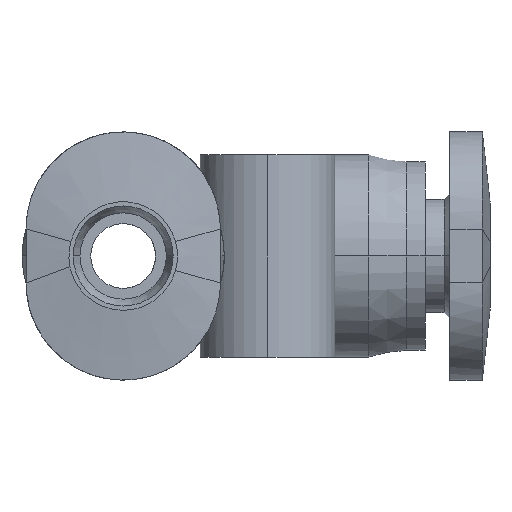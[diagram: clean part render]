
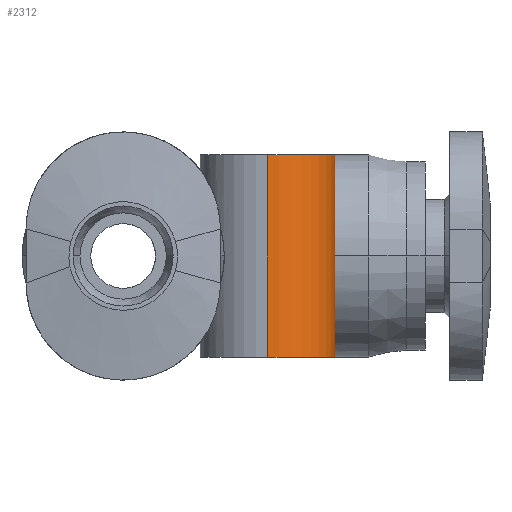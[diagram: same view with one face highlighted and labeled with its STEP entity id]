
A CAD part, left-side view. The second image highlights one B-rep face of the part: STEP entity #2312.
In plain terms, the highlighted cylindrical face has radius 2.5 mm (diameter 5 mm), a partial arc.
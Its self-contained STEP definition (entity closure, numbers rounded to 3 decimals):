
#56 = AXIS2_PLACEMENT_3D ( 'NONE', #1494, #4150, #1515 ) ;
#229 = CARTESIAN_POINT ( 'NONE',  ( -7.85, -5.35, 3.75 ) ) ;
#245 = DIRECTION ( 'NONE',  ( 0., 0., 1. ) ) ;
#251 = CARTESIAN_POINT ( 'NONE',  ( -2.877, -5.726, 2.405 ) ) ;
#314 = CARTESIAN_POINT ( 'NONE',  ( -3.395, -6.913, -1.598 ) ) ;
#369 = CARTESIAN_POINT ( 'NONE',  ( -3.589, -7.125, 1.091 ) ) ;
#383 = CARTESIAN_POINT ( 'NONE',  ( -2.85, -5.499, -2.437 ) ) ;
#489 = VERTEX_POINT ( 'NONE', #3186 ) ;
#536 = EDGE_CURVE ( 'NONE', #3581, #1575, #1518, .T. ) ;
#577 = LINE ( 'NONE', #1916, #1806 ) ;
#585 = CARTESIAN_POINT ( 'NONE',  ( -2.853, -5.5, 2.434 ) ) ;
#607 = CARTESIAN_POINT ( 'NONE',  ( -3.216, -6.659, 1.932 ) ) ;
#621 = CARTESIAN_POINT ( 'NONE',  ( -3.75, -7.271, 0. ) ) ;
#697 = CARTESIAN_POINT ( 'NONE',  ( -3.618, -7.153, 0.99 ) ) ;
#787 = ORIENTED_EDGE ( 'NONE', *, *, #3177, .F. ) ;
#812 = EDGE_CURVE ( 'NONE', #1575, #3771, #1939, .T. ) ;
#825 = CARTESIAN_POINT ( 'NONE',  ( -5.35, -5.35, 0. ) ) ;
#831 = DIRECTION ( 'NONE',  ( 0., 0., 1. ) ) ;
#902 = VECTOR ( 'NONE', #831, 1000. ) ;
#932 = CARTESIAN_POINT ( 'NONE',  ( -3.106, -6.454, 2.102 ) ) ;
#975 = EDGE_CURVE ( 'NONE', #3581, #3600, #3150, .T. ) ;
#1041 = CARTESIAN_POINT ( 'NONE',  ( -2.957, -6.088, -2.308 ) ) ;
#1207 = CARTESIAN_POINT ( 'NONE',  ( -3.75, -7.271, 0.332 ) ) ;
#1267 = CARTESIAN_POINT ( 'NONE',  ( -3.055, -6.343, 2.176 ) ) ;
#1350 = CARTESIAN_POINT ( 'NONE',  ( -3.557, -7.092, -1.189 ) ) ;
#1469 = VERTEX_POINT ( 'NONE', #4321 ) ;
#1487 = CARTESIAN_POINT ( 'NONE',  ( -7.85, -5.35, 0. ) ) ;
#1494 = CARTESIAN_POINT ( 'NONE',  ( -5.35, -5.35, 3.75 ) ) ;
#1499 = EDGE_LOOP ( 'NONE', ( #3843, #3590, #787, #2521, #2438, #3218, #2567 ) ) ;
#1511 = DIRECTION ( 'NONE',  ( 0., 0., 1. ) ) ;
#1515 = DIRECTION ( 'NONE',  ( -1., 0., 0. ) ) ;
#1518 = LINE ( 'NONE', #2519, #902 ) ;
#1544 = B_SPLINE_CURVE_WITH_KNOTS ( 'NONE', 3,
 ( #621, #4007, #2309, #2351, #3965, #3298, #1350, #4287, #3682, #2286, #314, #1702, #3607, #2979, #3634, #3365, #2050, #1041, #3003, #3021, #383, #3987 ),
 .UNSPECIFIED., .F., .F.,
 ( 4, 2, 2, 2, 2, 2, 2, 2, 2, 2, 4 ),
 ( 0.5, 0.585, 0.606, 0.617, 0.627, 0.67, 0.712, 0.733, 0.754, 0.797, 0.839 ),
 .UNSPECIFIED. ) ;
#1552 = LINE ( 'NONE', #1487, #2030 ) ;
#1575 = VERTEX_POINT ( 'NONE', #3175 ) ;
#1597 = CARTESIAN_POINT ( 'NONE',  ( -2.918, -5.947, 2.356 ) ) ;
#1621 = CARTESIAN_POINT ( 'NONE',  ( -3.395, -6.912, 1.599 ) ) ;
#1691 = CARTESIAN_POINT ( 'NONE',  ( -2.85, -5.35, 2.438 ) ) ;
#1702 = CARTESIAN_POINT ( 'NONE',  ( -3.276, -6.751, -1.83 ) ) ;
#1806 = VECTOR ( 'NONE', #3988, 1000. ) ;
#1916 = CARTESIAN_POINT ( 'NONE',  ( -2.85, -5.35, 0. ) ) ;
#1925 = CARTESIAN_POINT ( 'NONE',  ( -2.867, -5.649, 2.417 ) ) ;
#1939 = CIRCLE ( 'NONE', #56, 2.5 ) ;
#2030 = VECTOR ( 'NONE', #245, 1000. ) ;
#2038 = CARTESIAN_POINT ( 'NONE',  ( -3.557, -7.092, 1.189 ) ) ;
#2050 = CARTESIAN_POINT ( 'NONE',  ( -3.031, -6.287, -2.208 ) ) ;
#2185 = DIRECTION ( 'NONE',  ( -1., 0., 0. ) ) ;
#2225 = DIRECTION ( 'NONE',  ( 0., 0., 1. ) ) ;
#2286 = CARTESIAN_POINT ( 'NONE',  ( -3.455, -6.983, -1.466 ) ) ;
#2309 = CARTESIAN_POINT ( 'NONE',  ( -3.706, -7.237, -0.641 ) ) ;
#2312 = ADVANCED_FACE ( 'NONE', ( #4209 ), #4145, .T. ) ;
#2351 = CARTESIAN_POINT ( 'NONE',  ( -3.618, -7.153, -0.989 ) ) ;
#2362 = CARTESIAN_POINT ( 'NONE',  ( -3.535, -7.069, 1.253 ) ) ;
#2438 = ORIENTED_EDGE ( 'NONE', *, *, #536, .T. ) ;
#2517 = CIRCLE ( 'NONE', #3625, 2.5 ) ;
#2519 = CARTESIAN_POINT ( 'NONE',  ( -2.85, -5.35, 0. ) ) ;
#2521 = ORIENTED_EDGE ( 'NONE', *, *, #975, .F. ) ;
#2567 = ORIENTED_EDGE ( 'NONE', *, *, #4174, .F. ) ;
#2842 = EDGE_CURVE ( 'NONE', #489, #3687, #577, .T. ) ;
#2920 = CARTESIAN_POINT ( 'NONE',  ( -2.957, -6.087, 2.308 ) ) ;
#2979 = CARTESIAN_POINT ( 'NONE',  ( -3.133, -6.508, -2.061 ) ) ;
#3003 = CARTESIAN_POINT ( 'NONE',  ( -2.918, -5.947, -2.356 ) ) ;
#3021 = CARTESIAN_POINT ( 'NONE',  ( -2.864, -5.653, -2.421 ) ) ;
#3150 = B_SPLINE_CURVE_WITH_KNOTS ( 'NONE', 3,
 ( #1691, #3570, #585, #1925, #251, #1597, #2920, #4251, #1267, #932, #3592, #607, #3262, #1621, #3352, #3691, #2362, #2038, #369, #697, #3579, #1207, #3892 ),
 .UNSPECIFIED., .F., .F.,
 ( 4, 2, 2, 2, 2, 2, 2, 2, 2, 1, 2, 4 ),
 ( 0.161, 0.182, 0.203, 0.246, 0.267, 0.288, 0.33, 0.373, 0.383, 0.394, 0.415, 0.5 ),
 .UNSPECIFIED. ) ;
#3175 = CARTESIAN_POINT ( 'NONE',  ( -2.85, -5.35, 3.75 ) ) ;
#3177 = EDGE_CURVE ( 'NONE', #3600, #3687, #1544, .T. ) ;
#3186 = CARTESIAN_POINT ( 'NONE',  ( -2.85, -5.35, -3.75 ) ) ;
#3218 = ORIENTED_EDGE ( 'NONE', *, *, #812, .T. ) ;
#3262 = CARTESIAN_POINT ( 'NONE',  ( -3.275, -6.75, 1.831 ) ) ;
#3298 = CARTESIAN_POINT ( 'NONE',  ( -3.568, -7.103, -1.156 ) ) ;
#3352 = CARTESIAN_POINT ( 'NONE',  ( -3.455, -6.982, 1.467 ) ) ;
#3365 = CARTESIAN_POINT ( 'NONE',  ( -3.055, -6.343, -2.175 ) ) ;
#3381 = CARTESIAN_POINT ( 'NONE',  ( -2.85, -5.35, -2.438 ) ) ;
#3462 = AXIS2_PLACEMENT_3D ( 'NONE', #825, #1511, #2185 ) ;
#3543 = DIRECTION ( 'NONE',  ( -1., 0., 0. ) ) ;
#3570 = CARTESIAN_POINT ( 'NONE',  ( -2.85, -5.425, 2.438 ) ) ;
#3579 = CARTESIAN_POINT ( 'NONE',  ( -3.706, -7.237, 0.641 ) ) ;
#3581 = VERTEX_POINT ( 'NONE', #4130 ) ;
#3590 = ORIENTED_EDGE ( 'NONE', *, *, #2842, .T. ) ;
#3592 = CARTESIAN_POINT ( 'NONE',  ( -3.133, -6.508, 2.062 ) ) ;
#3600 = VERTEX_POINT ( 'NONE', #4109 ) ;
#3607 = CARTESIAN_POINT ( 'NONE',  ( -3.217, -6.66, -1.931 ) ) ;
#3625 = AXIS2_PLACEMENT_3D ( 'NONE', #3861, #2225, #3543 ) ;
#3634 = CARTESIAN_POINT ( 'NONE',  ( -3.106, -6.455, -2.101 ) ) ;
#3682 = CARTESIAN_POINT ( 'NONE',  ( -3.524, -7.058, -1.282 ) ) ;
#3687 = VERTEX_POINT ( 'NONE', #3381 ) ;
#3691 = CARTESIAN_POINT ( 'NONE',  ( -3.524, -7.058, 1.283 ) ) ;
#3771 = VERTEX_POINT ( 'NONE', #229 ) ;
#3843 = ORIENTED_EDGE ( 'NONE', *, *, #4096, .T. ) ;
#3861 = CARTESIAN_POINT ( 'NONE',  ( -5.35, -5.35, -3.75 ) ) ;
#3892 = CARTESIAN_POINT ( 'NONE',  ( -3.75, -7.271, 0. ) ) ;
#3965 = CARTESIAN_POINT ( 'NONE',  ( -3.599, -7.135, -1.057 ) ) ;
#3987 = CARTESIAN_POINT ( 'NONE',  ( -2.85, -5.35, -2.438 ) ) ;
#3988 = DIRECTION ( 'NONE',  ( 0., 0., 1. ) ) ;
#4007 = CARTESIAN_POINT ( 'NONE',  ( -3.75, -7.271, -0.332 ) ) ;
#4096 = EDGE_CURVE ( 'NONE', #1469, #489, #2517, .T. ) ;
#4109 = CARTESIAN_POINT ( 'NONE',  ( -3.75, -7.271, 0. ) ) ;
#4130 = CARTESIAN_POINT ( 'NONE',  ( -2.85, -5.35, 2.438 ) ) ;
#4145 = CYLINDRICAL_SURFACE ( 'NONE', #3462, 2.5 ) ;
#4150 = DIRECTION ( 'NONE',  ( 0., 0., -1. ) ) ;
#4174 = EDGE_CURVE ( 'NONE', #1469, #3771, #1552, .T. ) ;
#4209 = FACE_OUTER_BOUND ( 'NONE', #1499, .T. ) ;
#4251 = CARTESIAN_POINT ( 'NONE',  ( -3.031, -6.286, 2.209 ) ) ;
#4287 = CARTESIAN_POINT ( 'NONE',  ( -3.535, -7.069, -1.253 ) ) ;
#4321 = CARTESIAN_POINT ( 'NONE',  ( -7.85, -5.35, -3.75 ) ) ;
